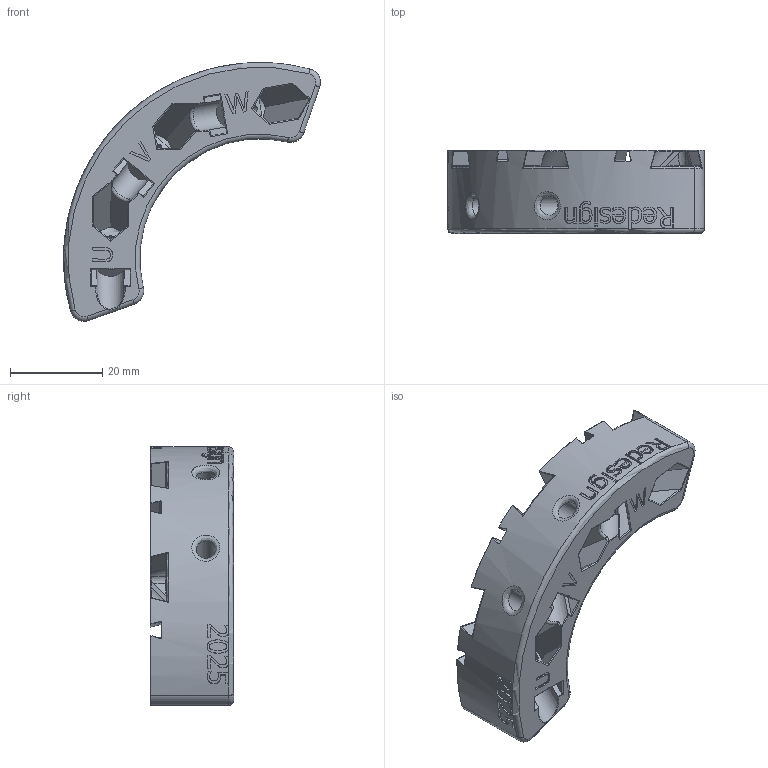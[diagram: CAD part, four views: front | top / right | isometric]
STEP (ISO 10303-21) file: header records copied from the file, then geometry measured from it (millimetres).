
FILE_DESCRIPTION(/* description */ ('Leistungsklemmbrett Redesign 2025'),/* implementation_level */ '2;1');
FILE_NAME(/* name */ 'power_connection_box.stp',/* time_stamp */ '2024-11-08T09:22:49+01:00',/* author */ ('Niklas.Fischer'),/* organization */ ('Formula Student'),/* preprocessor_version */ 'ST-DEVELOPER v20',/* originating_system */ 'Autodesk Inventor 2024',/* authorisation */ '');
FILE_SCHEMA (('AUTOMOTIVE_DESIGN { 1 0 10303 214 3 1 1 }'));
Length unit declared in the file: millimetre
Products named in the file (1): 146955
Bounding box: 55.62 x 18 x 56.02 mm (x, y, z)
Volume: 16824 mm3; surface area: 8931.6 mm2
Topology: 1 solids, 1 shells, 657 faces, 1808 edges, 1173 vertices
Faces by surface type: bspline 271, plane 206, cylinder 141, torus 20, cone 16, sphere 3
Full cylindrical faces by diameter (mm): 4.1 x2, 4.5 x3
Entity records: 30225 total; most frequent: CARTESIAN_POINT 14469, ORIENTED_EDGE 3620, DIRECTION 2368, EDGE_CURVE 1810, VERTEX_POINT 1176, AXIS2_PLACEMENT_3D 792, LINE 784, VECTOR 784
